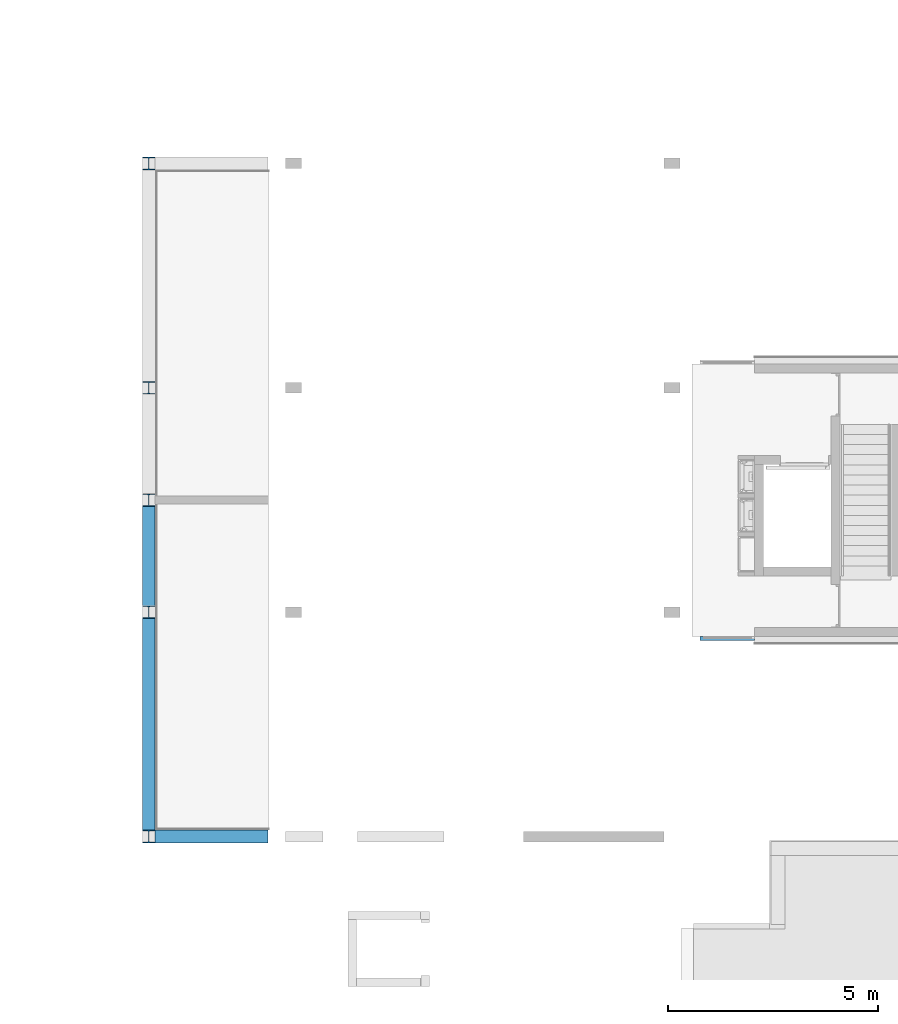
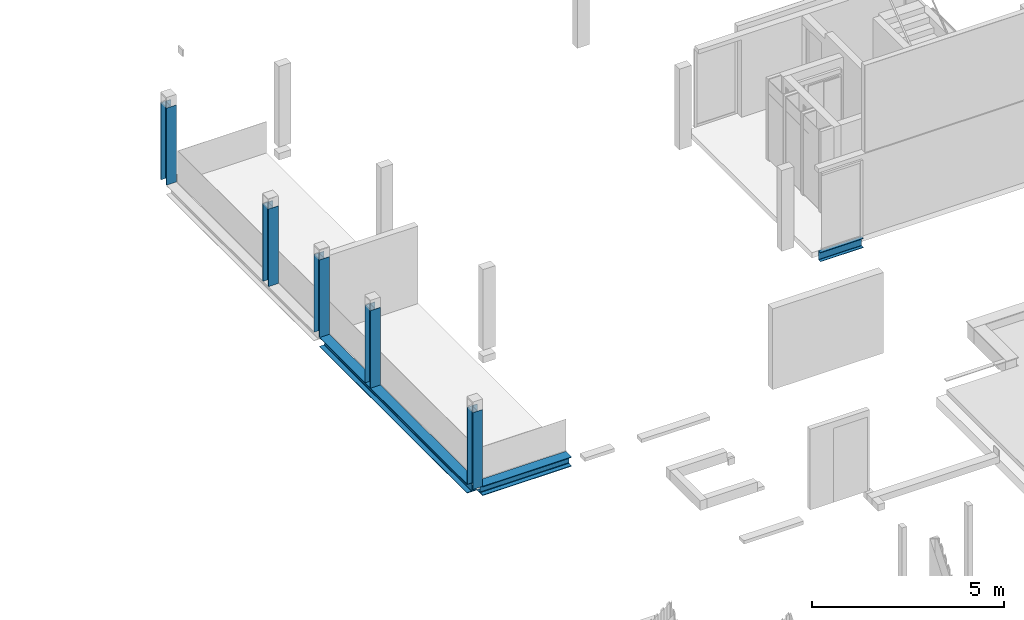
# One storey, part 2 of 22: 5 columns, 3 beams.
"""IFC2X3 building model written with IfcOpenShell, lengths in millimetres."""

from ifc_helpers import new_model, entity, si_unit, converted_unit, derived_unit, money_unit, direction, frame, origin_with_axes, place, context, subcontext, project, spatial, faceted_brep, material, type_object, element, save


model = new_model("IFC2X3")

# Units and contexts
model_context = context("Model", 3, precision=0.01, world=origin_with_axes(), true_north=direction((0.0, 1.0)))
body_context = subcontext(model_context, "Body", "Model", "MODEL_VIEW")
ifc_project = project(units=[si_unit("LENGTHUNIT", "METRE", prefix="MILLI"), si_unit("AREAUNIT", "SQUARE_METRE"), si_unit("VOLUMEUNIT", "CUBIC_METRE"), converted_unit("PLANEANGLEUNIT", "DEGREE", entity("IfcPlaneAngleMeasure", 0.0174532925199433), si_unit("PLANEANGLEUNIT", "RADIAN"), dimensions=[0, 0, 0, 0, 0, 0, 0]), money_unit("EUR"), converted_unit("TIMEUNIT", "Year", entity("IfcTimeMeasure", 31557600.0), si_unit("TIMEUNIT", "SECOND"), dimensions=[0, 0, 1, 0, 0, 0, 0]), si_unit("MASSUNIT", "GRAM", prefix="KILO"), si_unit("THERMODYNAMICTEMPERATUREUNIT", "DEGREE_CELSIUS"), si_unit("LUMINOUSINTENSITYUNIT", "LUMEN"), si_unit("ENERGYUNIT", "JOULE", prefix="MEGA"), derived_unit("THERMALCONDUCTANCEUNIT", [(si_unit("POWERUNIT", "WATT"), 1), (si_unit("LENGTHUNIT", "METRE"), -1), (si_unit("THERMODYNAMICTEMPERATUREUNIT", "KELVIN"), -1)]), derived_unit("SPECIFICHEATCAPACITYUNIT", [(si_unit("ENERGYUNIT", "JOULE"), 1), (si_unit("MASSUNIT", "GRAM", prefix="KILO"), -1), (si_unit("THERMODYNAMICTEMPERATUREUNIT", "KELVIN"), -1)]), derived_unit("MASSDENSITYUNIT", [(si_unit("MASSUNIT", "GRAM", prefix="KILO"), 1), (si_unit("VOLUMEUNIT", "CUBIC_METRE"), -1)])], contexts=[model_context])

# Site, building, storey
site_placement = place(None, origin_with_axes())
site = spatial("IfcSite", under=ifc_project, at=site_placement, Name="Site", CompositionType="ELEMENT")
building_placement = place(site_placement, origin_with_axes())
building = spatial("IfcBuilding", under=site, at=building_placement, Name="Naam gebouw", CompositionType="ELEMENT")
storey_placement = place(building_placement, frame((0.0, 0.0, 11150.0), z_axis=(0.0, 0.0, 1.0), x_axis=(1.0, 0.0, 0.0)))
storey = spatial("IfcBuildingStorey", under=building, at=storey_placement, Name="3e verdieping/dak N", CompositionType="ELEMENT", Elevation=11150.0)

# Columns
ifc_material_1 = material(Name="staal geanodiseerd RAL 7024")
column_type_1 = type_object("IfcColumnType", Name="NLRS_28_SCO_staal - kolom - HEB:HE300B", PredefinedType="COLUMN")
column_1_placement = place(storey_placement, frame((17291.00000002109, 38615.9124263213, 310.0000000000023), z_axis=(0.0, 0.0, 1.0), x_axis=(1.0, 0.0, 0.0)))
element("IfcColumn", 1, at=column_1_placement, inside=storey, type_object=column_type_1, material=ifc_material_1, Name="NLRS_28_SCO_staal - kolom - HEB:HE300B", ObjectType="COLUMN", context=body_context, shape_type="Brep", body=[
    faceted_brep([(-149.9999999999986, 149.9999999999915, 2469.999999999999), (-149.9999999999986, 149.9999999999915, 0.0), (-149.9999999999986, 130.9999999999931, 0.0), (-149.9999999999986, 130.9999999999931, 2469.999999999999), (150.0000000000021, 149.9999999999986, 2469.999999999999), (150.0000000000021, 149.9999999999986, 0.0), (149.9999999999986, 131.0000000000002, 0.0), (32.49999999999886, 131.0000000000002, 0.0), (19.0000000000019, 127.3826859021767, 0.0), (9.11731409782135, 117.4999999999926, 0.0), (5.500000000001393, 103.9999999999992, 0.0), (5.500000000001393, -103.9999999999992, 0.0), (9.11731409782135, -117.5000000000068, 0.0), (19.0000000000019, -127.3826859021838, 0.0), (32.49999999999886, -131.0000000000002, 0.0), (149.9999999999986, -131.0000000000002, 0.0), (150.0000000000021, -149.9999999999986, 0.0), (-149.9999999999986, -150.0000000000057, 0.0), (-149.9999999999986, -131.0000000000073, 0.0), (-32.49999999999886, -131.0000000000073, 0.0), (-18.99999999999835, -127.3826859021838, 0.0), (-9.11731409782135, -117.4999999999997, 0.0), (-5.49999999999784, -104.0000000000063, 0.0), (-5.49999999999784, 103.9999999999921, 0.0), (-9.11731409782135, 117.4999999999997, 0.0), (-18.99999999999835, 127.3826859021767, 0.0), (-32.49999999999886, 130.9999999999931, 0.0), (-32.49999999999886, 130.9999999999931, 2469.999999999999), (-18.99999999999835, 127.3826859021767, 2469.999999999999), (-9.11731409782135, 117.4999999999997, 2469.999999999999), (-5.49999999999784, 103.9999999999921, 2469.999999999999), (-5.49999999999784, -104.0000000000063, 2469.999999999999), (-9.11731409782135, -117.4999999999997, 2469.999999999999), (-18.99999999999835, -127.3826859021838, 2469.999999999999), (-32.49999999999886, -131.0000000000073, 2469.999999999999), (-149.9999999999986, -131.0000000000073, 2469.999999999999), (-149.9999999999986, -150.0000000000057, 2469.999999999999), (150.0000000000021, -149.9999999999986, 2469.999999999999), (149.9999999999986, -131.0000000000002, 2469.999999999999), (32.49999999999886, -131.0000000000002, 2469.999999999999), (19.0000000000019, -127.3826859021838, 2469.999999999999), (9.11731409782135, -117.5000000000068, 2469.999999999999), (5.500000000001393, -103.9999999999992, 2469.999999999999), (5.500000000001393, 103.9999999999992, 2469.999999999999), (9.11731409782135, 117.4999999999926, 2469.999999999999), (19.0000000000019, 127.3826859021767, 2469.999999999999), (32.49999999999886, 131.0000000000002, 2469.999999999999), (149.9999999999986, 131.0000000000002, 2469.999999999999)], [[[0, 1, 2, 3]], [[4, 5, 1, 0]], [[2, 1, 5, 6, 7, 8, 9, 10, 11, 12, 13, 14, 15, 16, 17, 18, 19, 20, 21, 22, 23, 24, 25, 26]], [[3, 2, 26, 27]], [[4, 0, 3, 27, 28, 29, 30, 31, 32, 33, 34, 35, 36, 37, 38, 39, 40, 41, 42, 43, 44, 45, 46, 47]], [[47, 6, 5, 4]], [[46, 7, 6, 47]], [[45, 8, 7, 46]], [[44, 9, 8, 45]], [[43, 10, 9, 44]], [[42, 11, 10, 43]], [[41, 12, 11, 42]], [[40, 13, 12, 41]], [[39, 14, 13, 40]], [[38, 15, 14, 39]], [[37, 16, 15, 38]], [[36, 17, 16, 37]], [[35, 18, 17, 36]], [[34, 19, 18, 35]], [[33, 20, 19, 34]], [[32, 21, 20, 33]], [[31, 22, 21, 32]], [[30, 23, 22, 31]], [[29, 24, 23, 30]], [[28, 25, 24, 29]], [[27, 26, 25, 28]]]),
])
column_2_placement = place(storey_placement, frame((17291.00000002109, 35945.91242627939, 310.0000000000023), z_axis=(0.0, 0.0, 1.0), x_axis=(1.0, 0.0, 0.0)))
element("IfcColumn", 2, at=column_2_placement, inside=storey, type_object=column_type_1, material=ifc_material_1, Name="NLRS_28_SCO_staal - kolom - HEB:HE300B", ObjectType="COLUMN", context=body_context, shape_type="Brep", body=[
    faceted_brep([(-149.9999999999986, 149.9999999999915, 2469.999999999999), (-149.9999999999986, 149.9999999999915, 0.0), (-149.9999999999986, 130.9999999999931, 0.0), (-149.9999999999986, 130.9999999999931, 2469.999999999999), (150.0000000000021, 149.9999999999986, 2469.999999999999), (150.0000000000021, 149.9999999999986, 0.0), (149.9999999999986, 131.0000000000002, 0.0), (32.49999999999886, 131.0000000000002, 0.0), (19.0000000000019, 127.3826859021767, 0.0), (9.11731409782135, 117.4999999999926, 0.0), (5.500000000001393, 103.9999999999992, 0.0), (5.49999999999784, -103.9999999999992, 0.0), (9.11731409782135, -117.5000000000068, 0.0), (19.0000000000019, -127.3826859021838, 0.0), (32.49999999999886, -131.0000000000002, 0.0), (149.9999999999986, -131.0000000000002, 0.0), (150.0000000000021, -149.9999999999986, 0.0), (-149.9999999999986, -150.0000000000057, 0.0), (-149.9999999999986, -131.0000000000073, 0.0), (-32.49999999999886, -131.0000000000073, 0.0), (-18.99999999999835, -127.3826859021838, 0.0), (-9.11731409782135, -117.4999999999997, 0.0), (-5.500000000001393, -104.0000000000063, 0.0), (-5.49999999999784, 103.9999999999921, 0.0), (-9.11731409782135, 117.4999999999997, 0.0), (-18.99999999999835, 127.3826859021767, 0.0), (-32.49999999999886, 130.9999999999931, 0.0), (-32.49999999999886, 130.9999999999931, 2469.999999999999), (-18.99999999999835, 127.3826859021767, 2469.999999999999), (-9.11731409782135, 117.4999999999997, 2469.999999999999), (-5.49999999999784, 103.9999999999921, 2469.999999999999), (-5.500000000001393, -104.0000000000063, 2469.999999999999), (-9.11731409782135, -117.4999999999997, 2469.999999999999), (-18.99999999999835, -127.3826859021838, 2469.999999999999), (-32.49999999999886, -131.0000000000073, 2469.999999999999), (-149.9999999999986, -131.0000000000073, 2469.999999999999), (-149.9999999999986, -150.0000000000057, 2469.999999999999), (150.0000000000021, -149.9999999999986, 2469.999999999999), (149.9999999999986, -131.0000000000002, 2469.999999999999), (32.49999999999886, -131.0000000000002, 2469.999999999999), (19.0000000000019, -127.3826859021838, 2469.999999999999), (9.11731409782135, -117.5000000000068, 2469.999999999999), (5.49999999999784, -103.9999999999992, 2469.999999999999), (5.500000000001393, 103.9999999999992, 2469.999999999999), (9.11731409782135, 117.4999999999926, 2469.999999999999), (19.0000000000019, 127.3826859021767, 2469.999999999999), (32.49999999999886, 131.0000000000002, 2469.999999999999), (149.9999999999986, 131.0000000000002, 2469.999999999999)], [[[0, 1, 2, 3]], [[4, 5, 1, 0]], [[2, 1, 5, 6, 7, 8, 9, 10, 11, 12, 13, 14, 15, 16, 17, 18, 19, 20, 21, 22, 23, 24, 25, 26]], [[3, 2, 26, 27]], [[4, 0, 3, 27, 28, 29, 30, 31, 32, 33, 34, 35, 36, 37, 38, 39, 40, 41, 42, 43, 44, 45, 46, 47]], [[47, 6, 5, 4]], [[46, 7, 6, 47]], [[45, 8, 7, 46]], [[44, 9, 8, 45]], [[43, 10, 9, 44]], [[42, 11, 10, 43]], [[41, 12, 11, 42]], [[40, 13, 12, 41]], [[39, 14, 13, 40]], [[38, 15, 14, 39]], [[37, 16, 15, 38]], [[36, 17, 16, 37]], [[35, 18, 17, 36]], [[34, 19, 18, 35]], [[33, 20, 19, 34]], [[32, 21, 20, 33]], [[31, 22, 21, 32]], [[30, 23, 22, 31]], [[29, 24, 23, 30]], [[28, 25, 24, 29]], [[27, 26, 25, 28]]]),
])
column_3_placement = place(storey_placement, frame((17291.00000005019, 33285.912426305, 310.0000000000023), z_axis=(0.0, 0.0, 1.0), x_axis=(1.0, 0.0, 0.0)))
element("IfcColumn", 3, at=column_3_placement, inside=storey, type_object=column_type_1, material=ifc_material_1, Name="NLRS_28_SCO_staal - kolom - HEB:HE300B", ObjectType="COLUMN", context=body_context, shape_type="Brep", body=[
    faceted_brep([(-150.0000000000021, 149.9999999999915, 2469.999999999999), (-150.0000000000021, 149.9999999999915, 0.0), (-149.9999999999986, 130.9999999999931, 0.0), (-149.9999999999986, 130.9999999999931, 2469.999999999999), (149.9999999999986, 149.9999999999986, 2469.999999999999), (149.9999999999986, 149.9999999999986, 0.0), (149.9999999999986, 131.0000000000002, 0.0), (32.49999999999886, 131.0000000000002, 0.0), (18.99999999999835, 127.3826859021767, 0.0), (9.11731409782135, 117.4999999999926, 0.0), (5.500000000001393, 103.9999999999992, 0.0), (5.49999999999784, -103.9999999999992, 0.0), (9.11731409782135, -117.5000000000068, 0.0), (18.99999999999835, -127.3826859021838, 0.0), (32.49999999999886, -131.0000000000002, 0.0), (149.9999999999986, -131.0000000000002, 0.0), (149.9999999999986, -149.9999999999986, 0.0), (-150.0000000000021, -150.0000000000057, 0.0), (-149.9999999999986, -131.0000000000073, 0.0), (-32.49999999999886, -131.0000000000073, 0.0), (-19.0000000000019, -127.3826859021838, 0.0), (-9.11731409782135, -117.4999999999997, 0.0), (-5.500000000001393, -104.0000000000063, 0.0), (-5.49999999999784, 103.9999999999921, 0.0), (-9.11731409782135, 117.4999999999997, 0.0), (-19.0000000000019, 127.3826859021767, 0.0), (-32.49999999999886, 130.9999999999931, 0.0), (-32.49999999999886, 130.9999999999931, 2469.999999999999), (-19.0000000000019, 127.3826859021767, 2469.999999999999), (-9.11731409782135, 117.4999999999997, 2469.999999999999), (-5.49999999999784, 103.9999999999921, 2469.999999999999), (-5.500000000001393, -104.0000000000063, 2469.999999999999), (-9.11731409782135, -117.4999999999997, 2469.999999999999), (-19.0000000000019, -127.3826859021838, 2469.999999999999), (-32.49999999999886, -131.0000000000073, 2469.999999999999), (-149.9999999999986, -131.0000000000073, 2469.999999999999), (-150.0000000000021, -150.0000000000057, 2469.999999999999), (149.9999999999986, -149.9999999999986, 2469.999999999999), (149.9999999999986, -131.0000000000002, 2469.999999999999), (32.49999999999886, -131.0000000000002, 2469.999999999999), (18.99999999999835, -127.3826859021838, 2469.999999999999), (9.11731409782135, -117.5000000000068, 2469.999999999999), (5.49999999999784, -103.9999999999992, 2469.999999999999), (5.500000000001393, 103.9999999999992, 2469.999999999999), (9.11731409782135, 117.4999999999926, 2469.999999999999), (18.99999999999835, 127.3826859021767, 2469.999999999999), (32.49999999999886, 131.0000000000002, 2469.999999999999), (149.9999999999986, 131.0000000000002, 2469.999999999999)], [[[0, 1, 2, 3]], [[4, 5, 1, 0]], [[2, 1, 5, 6, 7, 8, 9, 10, 11, 12, 13, 14, 15, 16, 17, 18, 19, 20, 21, 22, 23, 24, 25, 26]], [[3, 2, 26, 27]], [[4, 0, 3, 27, 28, 29, 30, 31, 32, 33, 34, 35, 36, 37, 38, 39, 40, 41, 42, 43, 44, 45, 46, 47]], [[47, 6, 5, 4]], [[46, 7, 6, 47]], [[45, 8, 7, 46]], [[44, 9, 8, 45]], [[43, 10, 9, 44]], [[42, 11, 10, 43]], [[41, 12, 11, 42]], [[40, 13, 12, 41]], [[39, 14, 13, 40]], [[38, 15, 14, 39]], [[37, 16, 15, 38]], [[36, 17, 16, 37]], [[35, 18, 17, 36]], [[34, 19, 18, 35]], [[33, 20, 19, 34]], [[32, 21, 20, 33]], [[31, 22, 21, 32]], [[30, 23, 22, 31]], [[29, 24, 23, 30]], [[28, 25, 24, 29]], [[27, 26, 25, 28]]]),
])
column_type_2 = type_object("IfcColumnType", Name="NLRS_28_SCO_staal - kolom - HEB:HE300B", PredefinedType="COLUMN")
column_4_placement = place(storey_placement, frame((17292.00000003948, 43945.91242627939, 310.0000000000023), z_axis=(0.0, 0.0, 1.0), x_axis=(0.0, -1.0, 0.0)))
element("IfcColumn", 4, at=column_4_placement, inside=storey, type_object=column_type_2, material=ifc_material_1, Name="NLRS_28_SCO_staal - kolom - HEB:HE300B", ObjectType="COLUMN", context=body_context, shape_type="Brep", body=[
    faceted_brep([(-149.9999999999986, -150.0000000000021, 2449.999999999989), (-149.9999999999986, -150.0000000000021, 0.0), (-131.0000000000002, -149.9999999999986, 0.0), (-131.0000000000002, -149.9999999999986, 2449.999999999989), (-149.9999999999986, 149.9999999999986, 2449.999999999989), (-149.9999999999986, 149.9999999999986, 0.0), (-131.0000000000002, 149.9999999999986, 0.0), (-131.0000000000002, 32.49999999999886, 0.0), (-127.3826859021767, 18.99999999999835, 0.0), (-117.4999999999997, 9.11731409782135, 0.0), (-103.9999999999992, 5.49999999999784, 0.0), (103.9999999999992, 5.49999999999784, 0.0), (117.4999999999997, 9.11731409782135, 0.0), (127.3826859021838, 18.99999999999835, 0.0), (131.0000000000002, 32.49999999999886, 0.0), (131.0000000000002, 149.9999999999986, 0.0), (149.9999999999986, 149.9999999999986, 0.0), (149.9999999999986, -150.0000000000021, 0.0), (131.0000000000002, -149.9999999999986, 0.0), (131.0000000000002, -32.49999999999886, 0.0), (127.3826859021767, -19.0000000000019, 0.0), (117.4999999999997, -9.11731409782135, 0.0), (103.9999999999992, -5.500000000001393, 0.0), (-103.9999999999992, -5.500000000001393, 0.0), (-117.4999999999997, -9.11731409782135, 0.0), (-127.3826859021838, -19.0000000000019, 0.0), (-131.0000000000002, -32.49999999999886, 0.0), (-131.0000000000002, -32.49999999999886, 2449.999999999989), (-127.3826859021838, -19.0000000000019, 2449.999999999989), (-117.4999999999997, -9.11731409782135, 2449.999999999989), (-103.9999999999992, -5.500000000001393, 2449.999999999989), (103.9999999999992, -5.500000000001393, 2449.999999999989), (117.4999999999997, -9.11731409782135, 2449.999999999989), (127.3826859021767, -19.0000000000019, 2449.999999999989), (131.0000000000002, -32.49999999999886, 2449.999999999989), (131.0000000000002, -149.9999999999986, 2449.999999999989), (149.9999999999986, -150.0000000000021, 2449.999999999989), (149.9999999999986, 149.9999999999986, 2449.999999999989), (131.0000000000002, 149.9999999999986, 2449.999999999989), (131.0000000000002, 32.49999999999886, 2449.999999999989), (127.3826859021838, 18.99999999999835, 2449.999999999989), (117.4999999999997, 9.11731409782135, 2449.999999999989), (103.9999999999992, 5.49999999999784, 2449.999999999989), (-103.9999999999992, 5.49999999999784, 2449.999999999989), (-117.4999999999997, 9.11731409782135, 2449.999999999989), (-127.3826859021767, 18.99999999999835, 2449.999999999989), (-131.0000000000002, 32.49999999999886, 2449.999999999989), (-131.0000000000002, 149.9999999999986, 2449.999999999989)], [[[0, 1, 2, 3]], [[4, 5, 1, 0]], [[2, 1, 5, 6, 7, 8, 9, 10, 11, 12, 13, 14, 15, 16, 17, 18, 19, 20, 21, 22, 23, 24, 25, 26]], [[3, 2, 26, 27]], [[4, 0, 3, 27, 28, 29, 30, 31, 32, 33, 34, 35, 36, 37, 38, 39, 40, 41, 42, 43, 44, 45, 46, 47]], [[47, 6, 5, 4]], [[46, 7, 6, 47]], [[45, 8, 7, 46]], [[44, 9, 8, 45]], [[43, 10, 9, 44]], [[42, 11, 10, 43]], [[41, 12, 11, 42]], [[40, 13, 12, 41]], [[39, 14, 13, 40]], [[38, 15, 14, 39]], [[37, 16, 15, 38]], [[36, 17, 16, 37]], [[35, 18, 17, 36]], [[34, 19, 18, 35]], [[33, 20, 19, 34]], [[32, 21, 20, 33]], [[31, 22, 21, 32]], [[30, 23, 22, 31]], [[29, 24, 23, 30]], [[28, 25, 24, 29]], [[27, 26, 25, 28]]]),
])
column_type_3 = type_object("IfcColumnType", Name="NLRS_28_SCO_staal - kolom - HEB:HE300B", PredefinedType="COLUMN")
column_5_placement = place(storey_placement, frame((17292.00000006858, 27955.91242634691, 310.0000000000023), z_axis=(0.0, 0.0, 1.0), x_axis=(1.0, 0.0, 0.0)))
element("IfcColumn", 5, at=column_5_placement, inside=storey, type_object=column_type_3, material=ifc_material_1, Name="NLRS_28_SCO_staal - kolom - HEB:HE300B", ObjectType="COLUMN", context=body_context, shape_type="Brep", body=[
    faceted_brep([(-149.9999999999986, 150.0000000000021, 2449.999999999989), (-149.9999999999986, 150.0000000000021, 0.0), (-149.9999999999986, 131.0000000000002, 0.0), (-149.9999999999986, 131.0000000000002, 2449.999999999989), (150.0000000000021, 150.0000000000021, 2449.999999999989), (150.0000000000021, 150.0000000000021, 0.0), (149.9999999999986, 131.0000000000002, 0.0), (32.49999999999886, 131.0000000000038, 0.0), (19.0000000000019, 127.3826859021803, 0.0), (9.11731409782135, 117.5000000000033, 0.0), (5.500000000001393, 103.9999999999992, 0.0), (5.49999999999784, -103.9999999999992, 0.0), (9.11731409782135, -117.4999999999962, 0.0), (19.0000000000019, -127.3826859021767, 0.0), (32.49999999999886, -130.9999999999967, 0.0), (149.9999999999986, -130.9999999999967, 0.0), (150.0000000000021, -149.9999999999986, 0.0), (-149.9999999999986, -149.9999999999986, 0.0), (-149.9999999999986, -130.9999999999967, 0.0), (-32.49999999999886, -130.9999999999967, 0.0), (-18.99999999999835, -127.3826859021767, 0.0), (-9.11731409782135, -117.4999999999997, 0.0), (-5.500000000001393, -103.9999999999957, 0.0), (-5.49999999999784, 104.0000000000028, 0.0), (-9.11731409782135, 117.4999999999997, 0.0), (-18.99999999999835, 127.3826859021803, 0.0), (-32.49999999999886, 131.0000000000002, 0.0), (-32.49999999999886, 131.0000000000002, 2449.999999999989), (-18.99999999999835, 127.3826859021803, 2449.999999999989), (-9.11731409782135, 117.4999999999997, 2449.999999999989), (-5.49999999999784, 104.0000000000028, 2449.999999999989), (-5.500000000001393, -103.9999999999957, 2449.999999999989), (-9.11731409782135, -117.4999999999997, 2449.999999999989), (-18.99999999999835, -127.3826859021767, 2449.999999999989), (-32.49999999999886, -130.9999999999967, 2449.999999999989), (-149.9999999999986, -130.9999999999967, 2449.999999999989), (-149.9999999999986, -149.9999999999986, 2449.999999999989), (150.0000000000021, -149.9999999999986, 2449.999999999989), (149.9999999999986, -130.9999999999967, 2449.999999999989), (32.49999999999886, -130.9999999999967, 2449.999999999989), (19.0000000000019, -127.3826859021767, 2449.999999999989), (9.11731409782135, -117.4999999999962, 2449.999999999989), (5.49999999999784, -103.9999999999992, 2449.999999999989), (5.500000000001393, 103.9999999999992, 2449.999999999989), (9.11731409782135, 117.5000000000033, 2449.999999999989), (19.0000000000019, 127.3826859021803, 2449.999999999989), (32.49999999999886, 131.0000000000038, 2449.999999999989), (149.9999999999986, 131.0000000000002, 2449.999999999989)], [[[0, 1, 2, 3]], [[4, 5, 1, 0]], [[2, 1, 5, 6, 7, 8, 9, 10, 11, 12, 13, 14, 15, 16, 17, 18, 19, 20, 21, 22, 23, 24, 25, 26]], [[3, 2, 26, 27]], [[4, 0, 3, 27, 28, 29, 30, 31, 32, 33, 34, 35, 36, 37, 38, 39, 40, 41, 42, 43, 44, 45, 46, 47]], [[47, 6, 5, 4]], [[46, 7, 6, 47]], [[45, 8, 7, 46]], [[44, 9, 8, 45]], [[43, 10, 9, 44]], [[42, 11, 10, 43]], [[41, 12, 11, 42]], [[40, 13, 12, 41]], [[39, 14, 13, 40]], [[38, 15, 14, 39]], [[37, 16, 15, 38]], [[36, 17, 16, 37]], [[35, 18, 17, 36]], [[34, 19, 18, 35]], [[33, 20, 19, 34]], [[32, 21, 20, 33]], [[31, 22, 21, 32]], [[30, 23, 22, 31]], [[29, 24, 23, 30]], [[28, 25, 24, 29]], [[27, 26, 25, 28]]]),
])

# Beams
ifc_material_2 = material(Name="staal")
beam_type_1 = type_object("IfcBeamType", Name="NLRS_28_SF_staal - balk - UNP:UNP300", PredefinedType="BEAM")
beam_1_placement = place(storey_placement, frame((31685.00219855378, 32657.24606858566, 159.9999999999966), z_axis=(0.0, 0.0, 1.0), x_axis=(0.0, 1.0, 0.0)))
element("IfcBeam", 6, at=beam_1_placement, inside=storey, type_object=beam_type_1, material=ifc_material_2, Name="NLRS_28_SF_staal - balk - UNP:UNP300", ObjectType="BEAM", context=body_context, shape_type="Brep", body=[
    faceted_brep([(-45.33333333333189, 0.0, 150.0000000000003), (-45.33333333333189, 1294.002198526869, 150.0000000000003), (-45.33333333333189, 1294.002198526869, 144.0999999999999), (-45.33333333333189, 0.0, 144.0999999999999), (54.66666666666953, 0.0, 150.0000000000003), (54.66666666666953, 1294.002198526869, 150.0000000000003), (54.66666666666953, 1294.002198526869, -150.0000000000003), (-45.33333333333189, 1294.002198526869, -150.0000000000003), (-45.33333333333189, 1294.002198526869, -144.0999999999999), (-42.99018758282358, 1294.002198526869, -138.4431457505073), (-37.33333333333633, 1294.002198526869, -136.099999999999), (28.66666666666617, 1294.002198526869, -132.7999999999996), (36.66666666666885, 1294.002198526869, -130.6564064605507), (42.52307312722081, 1294.002198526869, -124.8000000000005), (44.66666666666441, 1294.002198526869, -116.7999999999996), (44.66666666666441, 1294.002198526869, 116.7999999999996), (42.52307312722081, 1294.002198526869, 124.7999999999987), (36.66666666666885, 1294.002198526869, 130.6564064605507), (28.66666666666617, 1294.002198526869, 132.7999999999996), (-37.33333333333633, 1294.002198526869, 136.1000000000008), (-42.99018758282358, 1294.002198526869, 138.4431457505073), (-42.99018758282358, 0.0, 138.4431457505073), (-37.33333333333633, 0.0, 136.1000000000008), (28.66666666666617, 0.0, 132.7999999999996), (36.66666666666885, 0.0, 130.6564064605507), (42.52307312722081, 0.0, 124.7999999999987), (44.66666666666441, 0.0, 116.7999999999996), (44.66666666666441, 0.0, -116.7999999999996), (42.52307312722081, 0.0, -124.8000000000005), (36.66666666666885, 0.0, -130.6564064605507), (28.66666666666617, 0.0, -132.7999999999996), (-37.33333333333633, 0.0, -136.099999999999), (-42.99018758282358, 0.0, -138.4431457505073), (-45.33333333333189, 0.0, -144.0999999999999), (-45.33333333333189, 0.0, -150.0000000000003), (54.66666666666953, 0.0, -150.0000000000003)], [[[0, 1, 2, 3]], [[4, 5, 1, 0]], [[2, 1, 5, 6, 7, 8, 9, 10, 11, 12, 13, 14, 15, 16, 17, 18, 19, 20]], [[3, 2, 20, 21]], [[4, 0, 3, 21, 22, 23, 24, 25, 26, 27, 28, 29, 30, 31, 32, 33, 34, 35]], [[35, 6, 5, 4]], [[34, 7, 6, 35]], [[33, 8, 7, 34]], [[32, 9, 8, 33]], [[31, 10, 9, 32]], [[30, 11, 10, 31]], [[29, 12, 11, 30]], [[28, 13, 12, 29]], [[27, 14, 13, 28]], [[26, 15, 14, 27]], [[25, 16, 15, 26]], [[24, 17, 16, 25]], [[23, 18, 17, 24]], [[22, 19, 18, 23]], [[21, 20, 19, 22]]]),
])
beam_type_2 = type_object("IfcBeamType", Name="NLRS_28_SF_LIB_balk HE_generiek_ISR:balk HE_gen_HEB300", PredefinedType="BEAM")
beam_2_placement = place(storey_placement, frame((17292.00000003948, 35800.91242631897, 159.9999999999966), z_axis=(0.0, 0.0, 1.0), x_axis=(-1.0, 0.0, 0.0)))
element("IfcBeam", 7, at=beam_2_placement, inside=storey, type_object=beam_type_2, material=ifc_material_1, Name="NLRS_28_SF_LIB_balk HE_generiek_ISR:balk HE_gen_HEB300", ObjectType="BEAM", context=body_context, shape_type="Brep", body=[
    faceted_brep([(-150.0000000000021, 0.0, 150.0000000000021), (-150.0000000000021, 7695.000000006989, 150.0000000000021), (-150.0000000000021, 7695.000000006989, 131.000000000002), (-150.0000000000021, 0.0, 131.000000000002), (149.9999999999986, 0.0, 150.0000000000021), (149.9999999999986, 7695.000000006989, 150.0000000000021), (149.9999999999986, 7695.000000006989, 131.000000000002), (32.50000000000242, 7695.000000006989, 131.000000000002), (18.99999999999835, 7695.000000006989, 127.382685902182), (9.117314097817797, 7695.000000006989, 117.5000000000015), (5.49999999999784, 7695.000000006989, 104.000000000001), (5.49999999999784, 7695.000000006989, -103.9999999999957), (9.117314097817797, 7695.000000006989, -117.4999999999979), (18.99999999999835, 7695.000000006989, -127.3826859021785), (32.50000000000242, 7695.000000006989, -130.9999999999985), (149.9999999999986, 7695.000000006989, -130.9999999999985), (149.9999999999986, 7695.000000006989, -149.9999999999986), (-150.0000000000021, 7695.000000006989, -149.9999999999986), (-150.0000000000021, 7695.000000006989, -130.9999999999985), (-32.50000000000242, 7695.000000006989, -130.9999999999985), (-19.0000000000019, 7695.000000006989, -127.3826859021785), (-9.11731409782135, 7695.000000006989, -117.4999999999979), (-5.500000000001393, 7695.000000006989, -103.9999999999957), (-5.500000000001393, 7695.000000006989, 104.000000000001), (-9.11731409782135, 7695.000000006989, 117.5000000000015), (-19.0000000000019, 7695.000000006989, 127.382685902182), (-32.50000000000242, 7695.000000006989, 131.000000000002), (-32.50000000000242, 0.0, 131.000000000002), (-19.0000000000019, 0.0, 127.382685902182), (-9.11731409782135, 0.0, 117.5000000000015), (-5.500000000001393, 0.0, 104.000000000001), (-5.500000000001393, 0.0, -103.9999999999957), (-9.11731409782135, 0.0, -117.4999999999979), (-19.0000000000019, 0.0, -127.3826859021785), (-32.50000000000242, 0.0, -130.9999999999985), (-150.0000000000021, 0.0, -130.9999999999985), (-150.0000000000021, 0.0, -149.9999999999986), (149.9999999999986, 0.0, -149.9999999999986), (149.9999999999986, 0.0, -130.9999999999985), (32.50000000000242, 0.0, -130.9999999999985), (19.0000000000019, 0.0, -127.3826859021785), (9.11731409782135, 0.0, -117.4999999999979), (5.49999999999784, 0.0, -103.9999999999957), (5.49999999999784, 0.0, 104.000000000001), (9.11731409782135, 0.0, 117.5000000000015), (19.0000000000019, 0.0, 127.382685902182), (32.50000000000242, 0.0, 131.000000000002), (149.9999999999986, 0.0, 131.000000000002)], [[[0, 1, 2, 3]], [[4, 5, 1, 0]], [[2, 1, 5, 6, 7, 8, 9, 10, 11, 12, 13, 14, 15, 16, 17, 18, 19, 20, 21, 22, 23, 24, 25, 26]], [[3, 2, 26, 27]], [[4, 0, 3, 27, 28, 29, 30, 31, 32, 33, 34, 35, 36, 37, 38, 39, 40, 41, 42, 43, 44, 45, 46, 47]], [[47, 6, 5, 4]], [[46, 7, 6, 47]], [[45, 8, 7, 46]], [[44, 9, 8, 45]], [[43, 10, 9, 44]], [[42, 11, 10, 43]], [[41, 12, 11, 42]], [[40, 13, 12, 41]], [[39, 14, 13, 40]], [[38, 15, 14, 39]], [[37, 16, 15, 38]], [[36, 17, 16, 37]], [[35, 18, 17, 36]], [[34, 19, 18, 35]], [[33, 20, 19, 34]], [[32, 21, 20, 33]], [[31, 22, 21, 32]], [[30, 23, 22, 31]], [[29, 24, 23, 30]], [[28, 25, 24, 29]], [[27, 26, 25, 28]]]),
])
beam_3_placement = place(storey_placement, frame((20122.00000005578, 27955.91242634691, 159.9999999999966), z_axis=(0.0, 0.0, 1.0), x_axis=(0.0, 1.0, 0.0)))
element("IfcBeam", 8, at=beam_3_placement, inside=storey, type_object=beam_type_2, material=ifc_material_1, Name="NLRS_28_SF_LIB_balk HE_generiek_ISR:balk HE_gen_HEB300", ObjectType="BEAM", context=body_context, shape_type="Brep", body=[
    faceted_brep([(-150.0000000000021, 0.0, 150.0000000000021), (-150.0000000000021, 2679.999999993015, 150.0000000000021), (-150.0000000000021, 2679.999999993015, 131.000000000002), (-150.0000000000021, 0.0, 131.000000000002), (149.9999999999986, 0.0, 150.0000000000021), (149.9999999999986, 2679.999999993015, 150.0000000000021), (149.9999999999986, 2679.999999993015, 131.000000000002), (32.50000000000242, 2679.999999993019, 131.000000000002), (19.0000000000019, 2679.999999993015, 127.382685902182), (9.11731409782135, 2679.999999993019, 117.5000000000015), (5.49999999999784, 2679.999999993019, 104.000000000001), (5.49999999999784, 2679.999999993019, -103.9999999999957), (9.11731409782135, 2679.999999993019, -117.4999999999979), (19.0000000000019, 2679.999999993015, -127.3826859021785), (32.50000000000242, 2679.999999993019, -130.9999999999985), (149.9999999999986, 2679.999999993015, -130.9999999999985), (149.9999999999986, 2679.999999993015, -149.9999999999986), (-150.0000000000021, 2679.999999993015, -149.9999999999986), (-150.0000000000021, 2679.999999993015, -130.9999999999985), (-32.50000000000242, 2679.999999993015, -130.9999999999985), (-19.0000000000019, 2679.999999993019, -127.3826859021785), (-9.11731409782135, 2679.999999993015, -117.4999999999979), (-5.500000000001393, 2679.999999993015, -103.9999999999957), (-5.500000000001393, 2679.999999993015, 104.000000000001), (-9.11731409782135, 2679.999999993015, 117.5000000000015), (-19.0000000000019, 2679.999999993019, 127.382685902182), (-32.50000000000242, 2679.999999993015, 131.000000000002), (-32.50000000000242, 0.0, 131.000000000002), (-19.0000000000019, 0.0, 127.382685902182), (-9.11731409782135, 0.0, 117.5000000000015), (-5.500000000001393, 0.0, 104.000000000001), (-5.500000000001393, 0.0, -103.9999999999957), (-9.11731409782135, 0.0, -117.4999999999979), (-19.0000000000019, 0.0, -127.3826859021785), (-32.50000000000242, 0.0, -130.9999999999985), (-150.0000000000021, 0.0, -130.9999999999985), (-150.0000000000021, 0.0, -149.9999999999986), (149.9999999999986, 0.0, -149.9999999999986), (149.9999999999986, 0.0, -130.9999999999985), (32.50000000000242, 0.0, -130.9999999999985), (19.0000000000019, 0.0, -127.3826859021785), (9.11731409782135, 0.0, -117.4999999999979), (5.49999999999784, 0.0, -103.9999999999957), (5.49999999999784, 0.0, 104.000000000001), (9.11731409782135, 0.0, 117.5000000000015), (19.0000000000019, 0.0, 127.382685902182), (32.50000000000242, 0.0, 131.000000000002), (149.9999999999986, 0.0, 131.000000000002)], [[[0, 1, 2, 3]], [[4, 5, 1, 0]], [[2, 1, 5, 6, 7, 8, 9, 10, 11, 12, 13, 14, 15, 16, 17, 18, 19, 20, 21, 22, 23, 24, 25, 26]], [[3, 2, 26, 27]], [[4, 0, 3, 27, 28, 29, 30, 31, 32, 33, 34, 35, 36, 37, 38, 39, 40, 41, 42, 43, 44, 45, 46, 47]], [[47, 6, 5, 4]], [[46, 7, 6, 47]], [[45, 8, 7, 46]], [[44, 9, 8, 45]], [[43, 10, 9, 44]], [[42, 11, 10, 43]], [[41, 12, 11, 42]], [[40, 13, 12, 41]], [[39, 14, 13, 40]], [[38, 15, 14, 39]], [[37, 16, 15, 38]], [[36, 17, 16, 37]], [[35, 18, 17, 36]], [[34, 19, 18, 35]], [[33, 20, 19, 34]], [[32, 21, 20, 33]], [[31, 22, 21, 32]], [[30, 23, 22, 31]], [[29, 24, 23, 30]], [[28, 25, 24, 29]], [[27, 26, 25, 28]]]),
])

save(model, "model.ifc")
